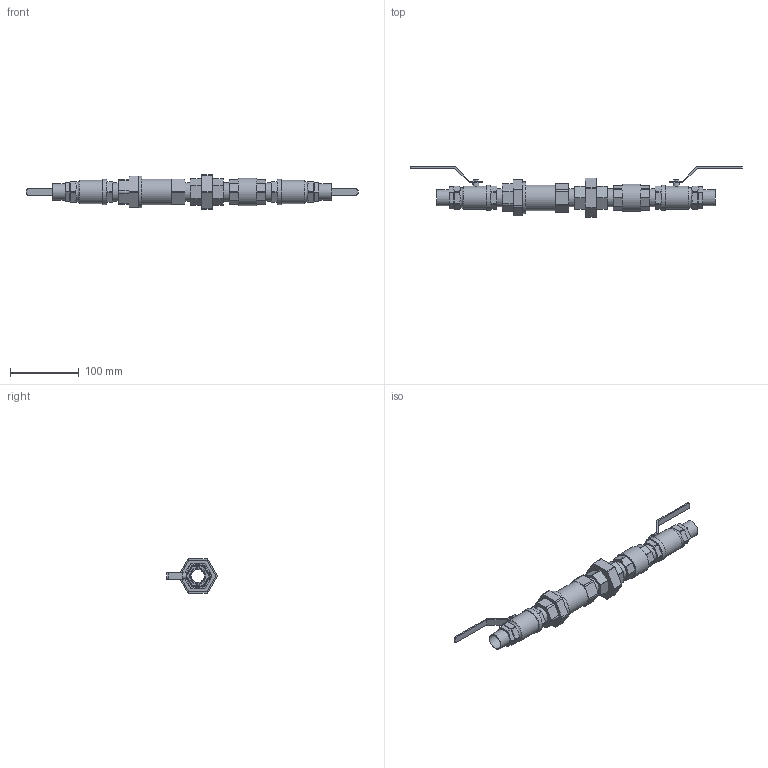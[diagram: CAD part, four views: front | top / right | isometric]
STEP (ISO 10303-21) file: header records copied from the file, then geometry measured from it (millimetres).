
FILE_DESCRIPTION(/* description */ ('VIC DOMESTIC WATER KIT FOR HYDRONIC BALANCING SERIES 7WX (SWT)','CAx-IF Rec.Pracs.---Representation and Presentation of Product Manufacturing Information (PMI)---4.0---2014-10-13'),/* implementation_level */ '2;1');
FILE_NAME(/* name */ 'C:\Users\Vjadhav\AppData\Roaming\Autodesk\ApplicationPlugins\Victaulic.Temp\A398\Victaulic_Domestic Water Kit for Hydronic Balancing_Series 7WX (CPF)_SWT_0.75 (20).stp',/* time_stamp */ '2021-08-10T11:09:56+06:00',/* author */ ('Vjadhav'),/* organization */ ('Victaulic'),/* preprocessor_version */ 'ST-DEVELOPER v17.2',/* originating_system */ 'Autodesk Inventor 2019',/* authorisation */ '');
FILE_SCHEMA (('AP242_MANAGED_MODEL_BASED_3D_ENGINEERING_MIM_LF { 1 0 10303 442 1 1 4 }'));
Length unit declared in the file: inch
Products named in the file (7): 7WX_SWT-0.75; Union_BR_386-0.75; Check_Valve_4133-0.75; Nipple_BR_386_Swt-0.75; 722L_Swt-0.75; Adapter_Sweat_604-0.75; 76X-0.75
Assembly tree (11 placements, depth 2):
  7WX_SWT-0.75
    Union_BR_386-0.75
    Nipple_BR_386_Swt-0.75  x4
    722L_Swt-0.75  x2
    Check_Valve_4133-0.75
    Adapter_Sweat_604-0.75  x2
    76X-0.75
Bounding box: 484.12 x 74.01 x 49.78 mm (x, y, z)
Volume: 263938.2 mm3; surface area: 116009.5 mm2
Topology: 11 solids, 11 shells, 336 faces, 886 edges, 606 vertices
Faces by surface type: plane 232, cylinder 102, torus 2
Full cylindrical faces by diameter (mm): 4.572 x2, 8.763 x2, 18.847 x2, 20.879 x4, 20.93 x5, 22.225 x2, 23.851 x2, 26.67 x16, 34.052 x2, 36.83 x2, 37.316 x1, 39.751 x1, 46.206 x1
Entity records: 8134 total; most frequent: CARTESIAN_POINT 1420, DIRECTION 1353, ORIENTED_EDGE 1254, EDGE_CURVE 627, AXIS2_PLACEMENT_3D 480, VERTEX_POINT 425, LINE 393, VECTOR 393
